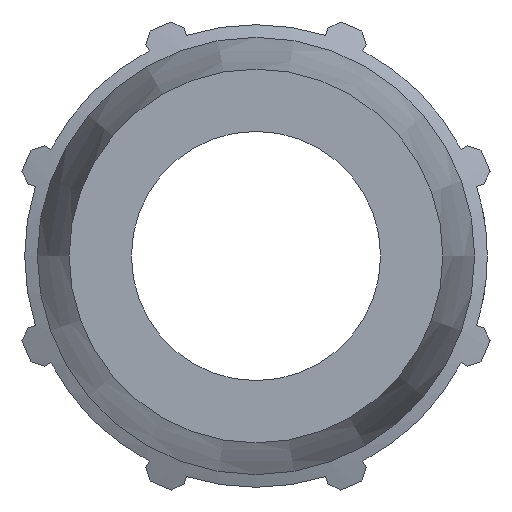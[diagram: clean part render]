
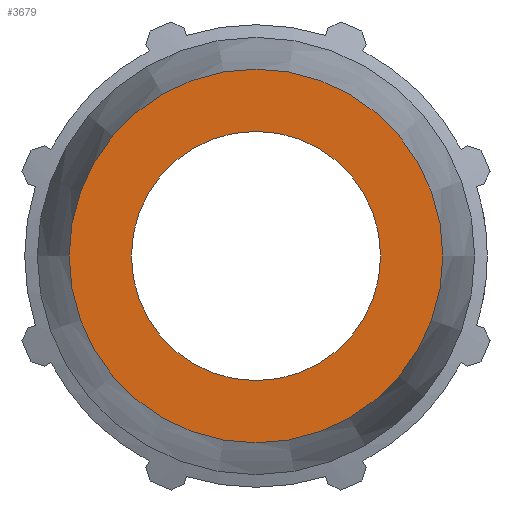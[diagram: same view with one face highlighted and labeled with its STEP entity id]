
A CAD part, left-side view. The second image highlights one B-rep face of the part: STEP entity #3679.
In plain terms, the highlighted planar face has unit normal (-1, 0, 0).
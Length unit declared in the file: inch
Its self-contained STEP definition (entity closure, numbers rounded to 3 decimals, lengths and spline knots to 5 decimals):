
#120=FACE_BOUND('',#521,.T.);
#176=PLANE('',#4005);
#315=FACE_OUTER_BOUND('',#520,.T.);
#520=EDGE_LOOP('',(#2900,#2901));
#521=EDGE_LOOP('',(#2902,#2903));
#755=CIRCLE('',#4003,1.42028);
#756=CIRCLE('',#4004,1.42028);
#757=CIRCLE('',#4006,0.94685);
#758=CIRCLE('',#4007,0.94685);
#1658=VERTEX_POINT('',#6042);
#1659=VERTEX_POINT('',#6043);
#1660=VERTEX_POINT('',#6048);
#1661=VERTEX_POINT('',#6049);
#2118=EDGE_CURVE('',#1658,#1659,#755,.T.);
#2120=EDGE_CURVE('',#1659,#1658,#756,.T.);
#2121=EDGE_CURVE('',#1660,#1661,#757,.T.);
#2122=EDGE_CURVE('',#1661,#1660,#758,.T.);
#2900=ORIENTED_EDGE('',*,*,#2118,.F.);
#2901=ORIENTED_EDGE('',*,*,#2120,.F.);
#2902=ORIENTED_EDGE('',*,*,#2121,.T.);
#2903=ORIENTED_EDGE('',*,*,#2122,.T.);
#3679=ADVANCED_FACE('',(#315,#120),#176,.F.);
#4003=AXIS2_PLACEMENT_3D('',#6044,#4720,#4721);
#4004=AXIS2_PLACEMENT_3D('',#6046,#4723,#4724);
#4005=AXIS2_PLACEMENT_3D('',#6047,#4725,#4726);
#4006=AXIS2_PLACEMENT_3D('',#6050,#4727,#4728);
#4007=AXIS2_PLACEMENT_3D('',#6051,#4729,#4730);
#4720=DIRECTION('center_axis',(1.,0.,0.));
#4721=DIRECTION('ref_axis',(0.,0.,-1.));
#4723=DIRECTION('center_axis',(1.,0.,0.));
#4724=DIRECTION('ref_axis',(0.,0.,-1.));
#4725=DIRECTION('center_axis',(1.,0.,0.));
#4726=DIRECTION('ref_axis',(0.,0.,-1.));
#4727=DIRECTION('center_axis',(1.,0.,0.));
#4728=DIRECTION('ref_axis',(0.,0.,-1.));
#4729=DIRECTION('center_axis',(1.,0.,0.));
#4730=DIRECTION('ref_axis',(0.,0.,-1.));
#6042=CARTESIAN_POINT('',(-4.8,1.42028,0.));
#6043=CARTESIAN_POINT('',(-4.8,-1.42028,0.));
#6044=CARTESIAN_POINT('Origin',(-4.8,0.,0.));
#6046=CARTESIAN_POINT('Origin',(-4.8,0.,0.));
#6047=CARTESIAN_POINT('Origin',(-4.8,0.94685,0.));
#6048=CARTESIAN_POINT('',(-4.8,0.94685,0.));
#6049=CARTESIAN_POINT('',(-4.8,-0.94685,0.));
#6050=CARTESIAN_POINT('Origin',(-4.8,0.,0.));
#6051=CARTESIAN_POINT('Origin',(-4.8,0.,0.));
